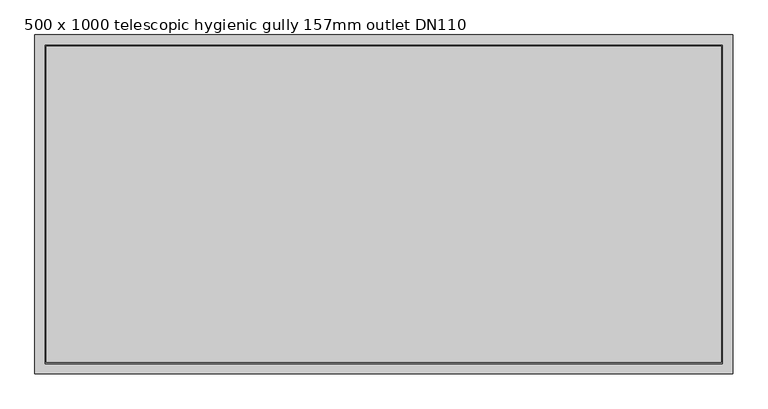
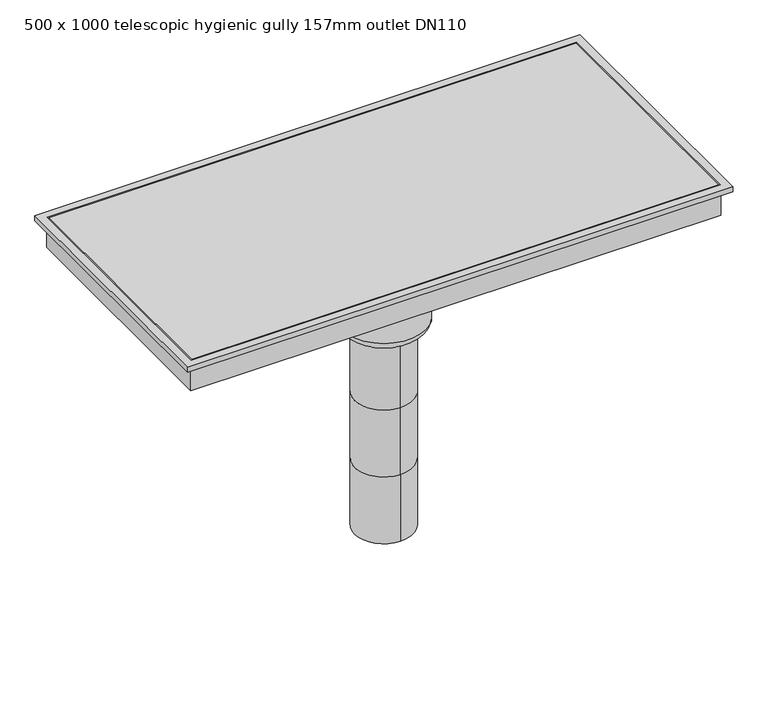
"""IFC4 building model written with IfcOpenShell, lengths in millimetres: sanitary terminal geometry, PF_ST_UN_Siphon telescopics eskis elongated hygiene first_ACO : 500 x 1000 telescopic hygienic gully 157mm outlet DN110."""

from ifc_helpers import new_model, si_unit, point, frame, origin, origin_2d, place, context, project, spatial, polyline, circle_curve, ellipse_curve, trimmed, segment, composite_curve, outline, extrude, faceted_brep, source, transform, mapped, element, save
from ifc_brep_helpers import plane_surface, cylinder_surface, revolved_surface, advanced_brep


def sanitary_terminal_500_x_1000_telescopic_hygienic_gully_157mm_bb9c7eb1(model_context):
    return source(origin(), model_context, "Body", "SolidModel", [
        extrude(outline(composite_curve([segment(trimmed(circle_curve(origin_2d(), 71.5), [point((-71.5, 0.0))], [point((71.5, 0.0))], False, "CARTESIAN"), True, "CONTINUOUS"), segment(trimmed(circle_curve(origin_2d(), 71.5), [point((71.5, 0.0))], [point((-71.5, 0.0))], False, "CARTESIAN"), True, "CONTINUOUS")], self_intersect=False)), frame((0.0, 0.0, -244.0), z_axis=(0.0, 0.0, 1.0), x_axis=(1.0, 0.0, 0.0)), (0.0, 0.0, 1.0), 64.0),
        faceted_brep([(515.0, 250.0, -130.0), (515.0, 250.0, -120.0), (515.0, -250.0, -120.0), (515.0, -250.0, -130.0), (501.0, 236.0, -180.0), (501.0, 236.0, -130.0), (501.0, -236.0, -130.0), (501.0, -236.0, -180.0), (500.0, -235.0, -120.0), (500.0, 235.0, -120.0), (500.0, 235.0, -170.0), (500.0, -235.0, -170.0), (-515.0, -250.0, -120.0), (-515.0, -250.0, -130.0), (-501.0, -236.0, -130.0), (-501.0, -236.0, -180.0), (-500.0, -235.0, -120.0), (-500.0, -235.0, -170.0), (-515.0, 250.0, -120.0), (-515.0, 250.0, -130.0), (-501.0, 236.0, -130.0), (-501.0, 236.0, -180.0), (-500.0, 235.0, -120.0), (-500.0, 235.0, -170.0)], [[[0, 1, 2, 3]], [[4, 5, 6, 7]], [[8, 9, 10, 11]], [[3, 2, 12, 13]], [[7, 6, 14, 15]], [[16, 8, 11, 17]], [[13, 12, 18, 19]], [[15, 14, 20, 21]], [[22, 16, 17, 23]], [[2, 1, 18, 12], [9, 8, 16, 22]], [[1, 0, 19, 18]], [[0, 3, 13, 19], [6, 5, 20, 14]], [[5, 4, 21, 20]], [[4, 7, 15, 21]], [[9, 22, 23, 10]], [[11, 10, 23, 17]]]),
        extrude(outline(polyline([(498.0, 233.0), (498.0, -233.0), (-498.0, -233.0), (-498.0, 233.0), (498.0, 233.0)])), frame((0.0, 0.0, -170.0), z_axis=(0.0, 0.0, 1.0), x_axis=(1.0, 0.0, 0.0)), (0.0, 0.0, 1.0), 50.0),
        advanced_brep(
        [(0.0, -55.0, -766.0), (0.0, 55.0, -766.0), (0.0, -55.0, -632.6666667), (0.0, 55.0, -632.6666667), (0.0, -55.0, -499.3333333), (0.0, 55.0, -499.3333333), (0.0, 55.0, -366.0), (55.0, 0.0, -366.0), (0.0, -55.0, -366.0), (-55.0, 0.0, -366.0), (78.5, 0.0, -349.5), (-78.5, 0.0, -349.5), (-78.5, 0.0, -197.0), (78.5, 0.0, -197.0), (62.0, 0.0, -366.0), (-62.0, 0.0, -366.0), (-179.0, 0.0, -197.0), (179.0, 0.0, -197.0), (-179.0, 0.0, -195.0), (179.0, 0.0, -195.0)],
        [
            (0, 1, circle_curve(frame((0.0, 0.0, -766.0), z_axis=(0.0, 0.0, -1.0), x_axis=(0.0, 1.0, 0.0)), 55.0)),
            (1, 0, circle_curve(frame((0.0, 0.0, -766.0), z_axis=(0.0, 0.0, -1.0), x_axis=(0.0, 1.0, 0.0)), 55.0)),
            (0, 2),
            (2, 3, circle_curve(frame((0.0, 0.0, -632.6666667), z_axis=(0.0, 0.0, -1.0), x_axis=(0.0, 1.0, 0.0)), 55.0)),
            (3, 1),
            (3, 2, circle_curve(frame((0.0, 0.0, -632.6666667), z_axis=(0.0, 0.0, -1.0), x_axis=(0.0, 1.0, 0.0)), 55.0)),
            (4, 2),
            (3, 5),
            (5, 4, circle_curve(frame((0.0, 0.0, -499.3333333), z_axis=(0.0, 0.0, -1.0), x_axis=(1.0, 0.0, 0.0)), 55.0)),
            (4, 5, circle_curve(frame((0.0, 0.0, -499.3333333), z_axis=(0.0, 0.0, -1.0), x_axis=(-1.0, 0.0, 0.0)), 55.0)),
            (5, 6),
            (6, 7, circle_curve(frame((0.0, 0.0, -366.0), z_axis=(0.0, 0.0, -1.0), x_axis=(0.0, 1.0, 0.0)), 55.0)),
            (7, 8, circle_curve(frame((0.0, 0.0, -366.0), z_axis=(0.0, 0.0, -1.0), x_axis=(0.0, 1.0, 0.0)), 55.0)),
            (8, 4),
            (8, 9, circle_curve(frame((0.0, 0.0, -366.0), z_axis=(0.0, 0.0, -1.0), x_axis=(0.0, 1.0, 0.0)), 55.0)),
            (9, 6, circle_curve(frame((0.0, 0.0, -366.0), z_axis=(0.0, 0.0, -1.0), x_axis=(0.0, 1.0, 0.0)), 55.0)),
            (10, 11, circle_curve(frame((0.0, 0.0, -349.5), z_axis=(0.0, 0.0, 1.0), x_axis=(-1.0, 0.0, 0.0)), 78.5)),
            (11, 12),
            (12, 13, circle_curve(frame((0.0, 0.0, -197.0), z_axis=(0.0, 0.0, -1.0), x_axis=(-1.0, 0.0, 0.0)), 78.5)),
            (13, 10),
            (11, 10, circle_curve(frame((0.0, 0.0, -349.5), z_axis=(0.0, 0.0, 1.0), x_axis=(-1.0, 0.0, 0.0)), 78.5)),
            (13, 12, circle_curve(frame((0.0, 0.0, -197.0), z_axis=(0.0, 0.0, -1.0), x_axis=(-1.0, 0.0, 0.0)), 78.5)),
            (10, 14, circle_curve(frame((62.0, 0.0, -349.5), z_axis=(0.0, 1.0, 0.0), x_axis=(-1.0, 0.0, 0.0)), 16.5)),
            (14, 15, circle_curve(frame((0.0, 0.0, -366.0), z_axis=(0.0, 0.0, 1.0), x_axis=(-1.0, 0.0, 0.0)), 62.0)),
            (15, 11, circle_curve(frame((-62.0, 0.0, -349.5), z_axis=(0.0, 1.0, 0.0), x_axis=(1.0, 0.0, 0.0)), 16.5)),
            (15, 14, circle_curve(frame((0.0, 0.0, -366.0), z_axis=(0.0, 0.0, 1.0), x_axis=(-1.0, 0.0, 0.0)), 62.0)),
            (14, 7),
            (9, 15),
            (16, 17, circle_curve(frame((0.0, 0.0, -197.0), z_axis=(0.0, 0.0, -1.0), x_axis=(1.0, 0.0, 0.0)), 179.0)),
            (17, 16, circle_curve(frame((0.0, 0.0, -197.0), z_axis=(0.0, 0.0, -1.0), x_axis=(1.0, 0.0, 0.0)), 179.0)),
            (18, 19, circle_curve(frame((0.0, 0.0, -195.0), z_axis=(0.0, 0.0, 1.0), x_axis=(1.0, 0.0, 0.0)), 179.0)),
            (19, 18, circle_curve(frame((0.0, 0.0, -195.0), z_axis=(0.0, 0.0, 1.0), x_axis=(1.0, 0.0, 0.0)), 179.0)),
            (17, 19),
            (18, 16),
        ],
        [
            plane_surface(frame((0.0, 55.0, -766.0), z_axis=(0.0, 0.0, -1.0), x_axis=(1.0, 0.0, 0.0))),
            cylinder_surface(frame((0.0, 0.0, -632.6666667), z_axis=(0.0, 0.0, -1.0), x_axis=(0.0, 1.0, 0.0)), 55.0),
            cylinder_surface(frame((0.0, 0.0, -499.3333333), z_axis=(0.0, 0.0, -1.0), x_axis=(1.0, 0.0, 0.0)), 55.0),
            cylinder_surface(frame((0.0, 0.0, -499.3333333), z_axis=(0.0, 0.0, -1.0), x_axis=(-1.0, 0.0, 0.0)), 55.0),
            cylinder_surface(frame((0.0, 0.0, -366.0), z_axis=(0.0, 0.0, -1.0), x_axis=(0.0, 1.0, 0.0)), 55.0),
            cylinder_surface(frame((0.0, 0.0, -135.0), z_axis=(0.0, 0.0, -1.0), x_axis=(-1.0, 0.0, 0.0)), 78.5),
            revolved_surface(trimmed(ellipse_curve(frame((-62.0, 0.0, -349.5), z_axis=(0.0, -1.0, 0.0), x_axis=(1.0, 0.0, 0.0)), 16.5, 16.5), [point((-78.5, 0.0, -349.5))], [point((-62.0, 0.0, -366.0))], True, "CARTESIAN"), (0.0, 0.0, -135.0), (0.0, 0.0, -1.0)),
            plane_surface(frame((0.0, 0.0, -366.0), z_axis=(0.0, 0.0, -1.0), x_axis=(-1.0, 0.0, 0.0))),
            plane_surface(frame((179.0, 0.0, -197.0), z_axis=(0.0, 0.0, -1.0), x_axis=(0.0, -1.0, 0.0))),
            plane_surface(frame((179.0, 0.0, -195.0), z_axis=(0.0, 0.0, 1.0), x_axis=(0.0, 1.0, 0.0))),
            cylinder_surface(frame((0.0, 0.0, -197.0), z_axis=(0.0, 0.0, 1.0), x_axis=(1.0, 0.0, 0.0)), 179.0),
        ],
        [
            (0, [[1, 2]]),
            (1, [[-1, 3, 4, 5]]),
            (1, [[-2, -5, 6, -3]]),
            (2, [[7, -6, 8, 9]]),
            (3, [[-7, 10, -8, -4]]),
            (4, [[11, 12, 13, 14, -9]]),
            (4, [[-11, -10, -14, 15, 16]]),
            (5, [[17, 18, 19, 20]]),
            (5, [[-18, 21, -20, 22]]),
            (6, [[-17, 23, 24, 25]]),
            (6, [[-21, -25, 26, -23]]),
            (7, [[-24, 27, -12, -16, 28]]),
            (7, [[-26, -28, -15, -13, -27]]),
            (8, [[29, 30], [-19, -22]]),
            (9, [[31, 32]]),
            (10, [[-30, 33, -31, 34]]),
            (10, [[-29, -34, -32, -33]]),
        ],
    ),
    ])


if __name__ == "__main__":
    model = new_model("IFC4")
    model_context = context("Model", 3, world=origin())
    ifc_project = project(units=[si_unit("LENGTHUNIT", "METRE", prefix="MILLI")], contexts=[model_context])
    site = spatial("IfcSite", under=ifc_project)
    building = spatial("IfcBuilding", under=site)
    placement = place(None, origin())
    sanitary_terminal_500_x_1000_telescopic_hygienic_gully_157mm_shape = sanitary_terminal_500_x_1000_telescopic_hygienic_gully_157mm_bb9c7eb1(model_context)
    element("IfcSanitaryTerminal", 1, ObjectType="PF_ST_UN_Siphon telescopics eskis elongated hygiene first_ACO : 500 x 1000 telescopic hygienic gully 157mm outlet DN110", at=placement, inside=building, context=model_context, shape_type="MappedRepresentation", body=[
        mapped(sanitary_terminal_500_x_1000_telescopic_hygienic_gully_157mm_shape, transform((0.0, 0.0, 0.0), x_axis=(1.0, 0.0, 0.0), y_axis=(0.0, 1.0, 0.0), z_axis=(0.0, 0.0, 1.0))),
    ])
    save(model, "model.ifc")
